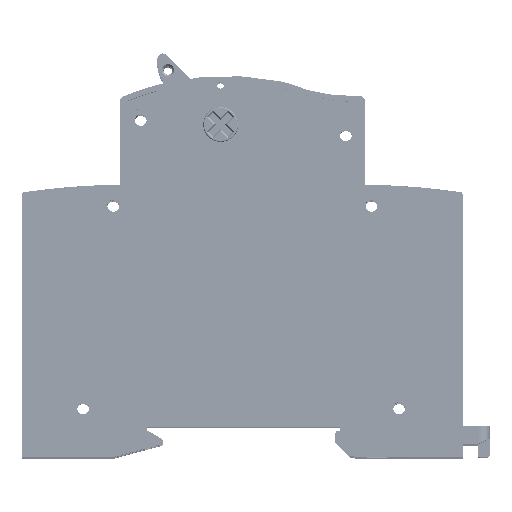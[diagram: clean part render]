
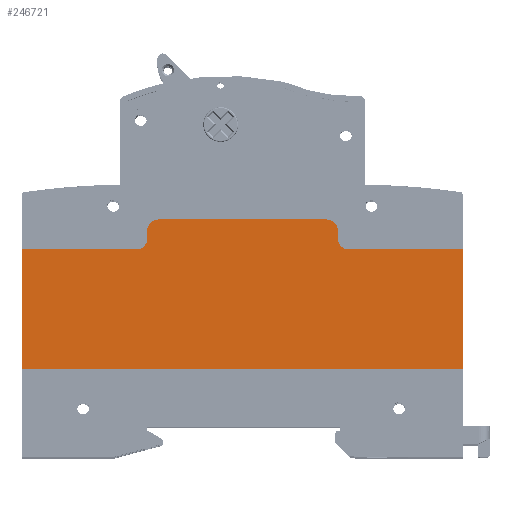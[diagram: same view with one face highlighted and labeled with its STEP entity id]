
A CAD part, top view. The second image highlights one B-rep face of the part: STEP entity #246721.
In plain terms, the highlighted planar face has unit normal (0, 0, 1).
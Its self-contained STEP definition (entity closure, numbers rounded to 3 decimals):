
#52 = FACE_OUTER_BOUND ( 'NONE', #276242, .T. ) ;
#3782 = ORIENTED_EDGE ( 'NONE', *, *, #489810, .F. ) ;
#5256 = PLANE ( 'NONE',  #18381 ) ;
#5836 = ORIENTED_EDGE ( 'NONE', *, *, #475121, .T. ) ;
#9435 = VERTEX_POINT ( 'NONE', #183740 ) ;
#10646 = ORIENTED_EDGE ( 'NONE', *, *, #73810, .T. ) ;
#11270 = DIRECTION ( 'NONE',  ( -1., 0., 0. ) ) ;
#18319 = DIRECTION ( 'NONE',  ( 0., 1., 0. ) ) ;
#18381 = AXIS2_PLACEMENT_3D ( 'NONE', #487433, #167900, #130427 ) ;
#20931 = VERTEX_POINT ( 'NONE', #209118 ) ;
#29097 = DIRECTION ( 'NONE',  ( 0., -1., 0. ) ) ;
#31528 = DIRECTION ( 'NONE',  ( -1., 0., 0. ) ) ;
#33859 = DIRECTION ( 'NONE',  ( 0., 0., -1. ) ) ;
#39715 = VECTOR ( 'NONE', #18319, 1000. ) ;
#44450 = DIRECTION ( 'NONE',  ( 0., 1., 0. ) ) ;
#47797 = ORIENTED_EDGE ( 'NONE', *, *, #201410, .F. ) ;
#64556 = VECTOR ( 'NONE', #371662, 1000. ) ;
#68518 = DIRECTION ( 'NONE',  ( -1., 0., 0. ) ) ;
#68904 = VERTEX_POINT ( 'NONE', #209856 ) ;
#72586 = CARTESIAN_POINT ( 'NONE',  ( 83.85, 33.163, 91.527 ) ) ;
#73810 = EDGE_CURVE ( 'NONE', #20931, #104894, #321516, .T. ) ;
#75906 = ORIENTED_EDGE ( 'NONE', *, *, #445492, .F. ) ;
#76612 = VERTEX_POINT ( 'NONE', #72586 ) ;
#87146 = EDGE_CURVE ( 'NONE', #260157, #386085, #361750, .T. ) ;
#91474 = ORIENTED_EDGE ( 'NONE', *, *, #342359, .F. ) ;
#98934 = CARTESIAN_POINT ( 'NONE',  ( -60.675, 33.163, 91.527 ) ) ;
#98991 = CARTESIAN_POINT ( 'NONE',  ( 2.85, 11.163, 91.527 ) ) ;
#104894 = VERTEX_POINT ( 'NONE', #419529 ) ;
#108026 = DIRECTION ( 'NONE',  ( 0., 0., -1. ) ) ;
#115030 = VECTOR ( 'NONE', #29097, 1000. ) ;
#121819 = LINE ( 'NONE', #484102, #461952 ) ;
#130427 = DIRECTION ( 'NONE',  ( 1., 0., 0. ) ) ;
#130591 = VECTOR ( 'NONE', #31528, 1000. ) ;
#131045 = CARTESIAN_POINT ( 'NONE',  ( 58.882, 38.663, 91.527 ) ) ;
#148920 = LINE ( 'NONE', #396402, #130591 ) ;
#154733 = CARTESIAN_POINT ( 'NONE',  ( 60.882, 35.163, 91.527 ) ) ;
#157701 = ORIENTED_EDGE ( 'NONE', *, *, #367915, .F. ) ;
#162278 = CARTESIAN_POINT ( 'NONE',  ( 83.85, 11.163, 91.527 ) ) ;
#167900 = DIRECTION ( 'NONE',  ( 0., 0., 1. ) ) ;
#172140 = CARTESIAN_POINT ( 'NONE',  ( -60.675, 33.163, 91.527 ) ) ;
#183740 = CARTESIAN_POINT ( 'NONE',  ( 60.882, 36.663, 91.527 ) ) ;
#184025 = CARTESIAN_POINT ( 'NONE',  ( 60.882, -20.078, 91.527 ) ) ;
#196900 = CARTESIAN_POINT ( 'NONE',  ( 27.882, 36.663, 91.527 ) ) ;
#196937 = DIRECTION ( 'NONE',  ( 1., 0., 0. ) ) ;
#197242 = ORIENTED_EDGE ( 'NONE', *, *, #238813, .F. ) ;
#201410 = EDGE_CURVE ( 'NONE', #9435, #224233, #513772, .T. ) ;
#209118 = CARTESIAN_POINT ( 'NONE',  ( 25.882, 35.163, 91.527 ) ) ;
#209856 = CARTESIAN_POINT ( 'NONE',  ( 2.85, 33.163, 91.527 ) ) ;
#214051 = EDGE_CURVE ( 'NONE', #294955, #336331, #148920, .T. ) ;
#224183 = LINE ( 'NONE', #98934, #397184 ) ;
#224233 = VERTEX_POINT ( 'NONE', #154733 ) ;
#232736 = AXIS2_PLACEMENT_3D ( 'NONE', #390848, #33859, #68518 ) ;
#233565 = VERTEX_POINT ( 'NONE', #257560 ) ;
#238813 = EDGE_CURVE ( 'NONE', #68904, #104894, #246617, .T. ) ;
#240604 = ORIENTED_EDGE ( 'NONE', *, *, #244582, .T. ) ;
#244582 = EDGE_CURVE ( 'NONE', #294955, #76612, #462222, .T. ) ;
#246617 = LINE ( 'NONE', #172140, #64556 ) ;
#246721 = ADVANCED_FACE ( 'NONE', ( #52 ), #5256, .T. ) ;
#257560 = CARTESIAN_POINT ( 'NONE',  ( 25.882, 36.663, 91.527 ) ) ;
#260157 = VERTEX_POINT ( 'NONE', #359638 ) ;
#271152 = AXIS2_PLACEMENT_3D ( 'NONE', #370874, #333562, #11270 ) ;
#276242 = EDGE_LOOP ( 'NONE', ( #413143, #240604, #157701, #5836, #47797, #3782, #483309, #91474, #75906, #10646, #197242, #505261 ) ) ;
#294955 = VERTEX_POINT ( 'NONE', #162278 ) ;
#303225 = LINE ( 'NONE', #383159, #39715 ) ;
#306201 = AXIS2_PLACEMENT_3D ( 'NONE', #196900, #359102, #361701 ) ;
#306591 = DIRECTION ( 'NONE',  ( 1., 0., 0. ) ) ;
#317596 = VERTEX_POINT ( 'NONE', #378105 ) ;
#321516 = CIRCLE ( 'NONE', #483206, 2. ) ;
#333562 = DIRECTION ( 'NONE',  ( 0., 0., -1. ) ) ;
#336331 = VERTEX_POINT ( 'NONE', #98991 ) ;
#342329 = DIRECTION ( 'NONE',  ( 0., 1., 0. ) ) ;
#342359 = EDGE_CURVE ( 'NONE', #233565, #260157, #399750, .T. ) ;
#350357 = CARTESIAN_POINT ( 'NONE',  ( 23.882, 35.163, 91.527 ) ) ;
#359102 = DIRECTION ( 'NONE',  ( 0., 0., -1. ) ) ;
#359638 = CARTESIAN_POINT ( 'NONE',  ( 27.882, 38.663, 91.527 ) ) ;
#361701 = DIRECTION ( 'NONE',  ( -1., 0., 0. ) ) ;
#361750 = LINE ( 'NONE', #489558, #377043 ) ;
#367915 = EDGE_CURVE ( 'NONE', #317596, #76612, #224183, .T. ) ;
#370874 = CARTESIAN_POINT ( 'NONE',  ( 58.882, 36.663, 91.527 ) ) ;
#371662 = DIRECTION ( 'NONE',  ( 1., 0., 0. ) ) ;
#377043 = VECTOR ( 'NONE', #196937, 1000. ) ;
#378105 = CARTESIAN_POINT ( 'NONE',  ( 62.882, 33.163, 91.527 ) ) ;
#383159 = CARTESIAN_POINT ( 'NONE',  ( 2.85, -20.078, 91.527 ) ) ;
#386085 = VERTEX_POINT ( 'NONE', #131045 ) ;
#390848 = CARTESIAN_POINT ( 'NONE',  ( 62.882, 35.163, 91.527 ) ) ;
#396402 = CARTESIAN_POINT ( 'NONE',  ( -60.675, 11.163, 91.527 ) ) ;
#397184 = VECTOR ( 'NONE', #306591, 1000. ) ;
#399750 = CIRCLE ( 'NONE', #306201, 2. ) ;
#402997 = CIRCLE ( 'NONE', #232736, 2. ) ;
#407177 = EDGE_CURVE ( 'NONE', #336331, #68904, #303225, .T. ) ;
#410699 = VECTOR ( 'NONE', #342329, 1000. ) ;
#413143 = ORIENTED_EDGE ( 'NONE', *, *, #214051, .F. ) ;
#419529 = CARTESIAN_POINT ( 'NONE',  ( 23.882, 33.163, 91.527 ) ) ;
#424919 = CARTESIAN_POINT ( 'NONE',  ( 83.85, 43.209, 91.527 ) ) ;
#445492 = EDGE_CURVE ( 'NONE', #20931, #233565, #121819, .T. ) ;
#461952 = VECTOR ( 'NONE', #44450, 1000. ) ;
#462222 = LINE ( 'NONE', #424919, #410699 ) ;
#475121 = EDGE_CURVE ( 'NONE', #317596, #224233, #402997, .T. ) ;
#483206 = AXIS2_PLACEMENT_3D ( 'NONE', #350357, #108026, #507548 ) ;
#483309 = ORIENTED_EDGE ( 'NONE', *, *, #87146, .F. ) ;
#484102 = CARTESIAN_POINT ( 'NONE',  ( 25.882, -20.077, 91.527 ) ) ;
#487433 = CARTESIAN_POINT ( 'NONE',  ( -60.675, -20.078, 91.527 ) ) ;
#489558 = CARTESIAN_POINT ( 'NONE',  ( -60.675, 38.663, 91.527 ) ) ;
#489810 = EDGE_CURVE ( 'NONE', #386085, #9435, #526228, .T. ) ;
#505261 = ORIENTED_EDGE ( 'NONE', *, *, #407177, .F. ) ;
#507548 = DIRECTION ( 'NONE',  ( -1., 0., 0. ) ) ;
#513772 = LINE ( 'NONE', #184025, #115030 ) ;
#526228 = CIRCLE ( 'NONE', #271152, 2. ) ;
